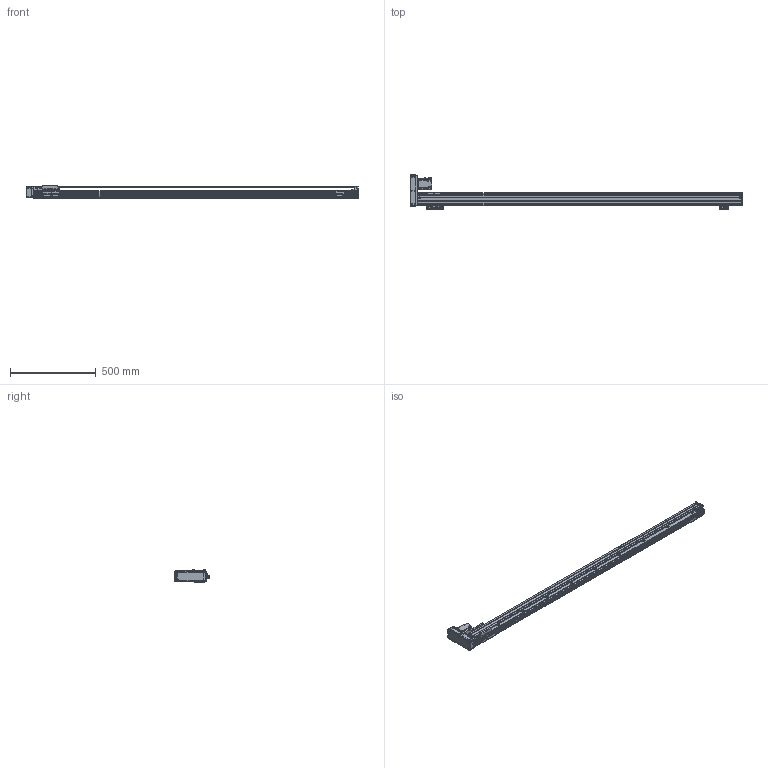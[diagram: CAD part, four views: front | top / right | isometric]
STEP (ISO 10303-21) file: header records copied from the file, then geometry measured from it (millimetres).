
FILE_DESCRIPTION(/* description */ (''),/* implementation_level */ '2;1');
FILE_NAME(/* name */ '\\192.168.0.160\disk1\HAN SHIN Master\B-설계부문\C-표준\B-2024년\BC02-표준도면\+로봇 개선표준도면\홈페이지 표준 도면\홈페이지 최종 작업 폴더\3D\HR\HR75\HR75병렬\좌병렬\HR75-L20-N1B-1700-R10.stp',/* time_stamp */ '2025-01-18T15:43:08+09:00',/* author */ ('user'),/* organization */ (''),/* preprocessor_version */ 'ST-DEVELOPER v18.1',/* originating_system */ 'Autodesk Inventor 2022',/* authorisation */ '');
FILE_SCHEMA (('CONFIG_CONTROL_DESIGN'));
Products named in the file (23): HG75-L20-N1B-0500-R10 - 간소화; BASE; HR75 FRONT BLOCK; HR75 REAR COVER-TENTION; HR75 TENSION REAR BLOCK; HG3UPCOV001; H 15F_BLOCK; HR65,75 SENSOR DOG; HG90STOPPER - 20L; HG90STOPPER - 27L; MOTOR PLATE-200W(MITSUBISHI); HC75-LR-MOTOR PLATE(200W)-사출; 화살표; HR75-LR-BELT COVER(200W); HR75-BELT COVER-COVER2; HR75-BELT COVER-COVER; hg-kr23_; HR65-BELT COVER-COVER3; M-5HL-4; HR75 W TABLE; LMKE1520 NUT; SENSOR BRK(EE-SX674A); EE_SX674A
Assembly tree (28 placements, depth 2):
  HG75-L20-N1B-0500-R10 - 간소화
    BASE
    HR75 FRONT BLOCK
    HR75 REAR COVER-TENTION
    SENSOR BRK(EE-SX674A)  x3
    EE_SX674A  x3
    HR75 TENSION REAR BLOCK
    HG3UPCOV001
    H 15F_BLOCK
    HR65,75 SENSOR DOG
    HG90STOPPER - 20L
    HG90STOPPER - 27L
    MOTOR PLATE-200W(MITSUBISHI)
    HC75-LR-MOTOR PLATE(200W)-사출
    화살표  x2
    HR75-LR-BELT COVER(200W)
    HR75-BELT COVER-COVER2
    HR75-BELT COVER-COVER
    HR65-BELT COVER-COVER3  x2
    hg-kr23_
    M-5HL-4
    HR75 W TABLE
    LMKE1520 NUT
Bounding box: 1939 x 199 x 73 mm (x, y, z)
Volume: 2684765.6 mm3; surface area: 1256812.6 mm2
Topology: 28 solids, 28 shells, 2948 faces, 8105 edges, 5357 vertices
Faces by surface type: plane 2189, cylinder 644, cone 107, sphere 8
Full cylindrical faces by diameter (mm): 1.8 x1, 2 x4, 2.013 x2, 2.459 x16, 2.5 x2, 3 x8, 3.242 x46, 3.4 x20, 3.5 x6, 4.134 x54, 4.5 x22, 4.917 x5, 5 x31, 5.5 x38, 5.6 x8, 5.8 x4, 5.9 x8, 6 x4, 6.5 x1, 7 x1, 8 x1, 9.5 x34, 14 x1, 15 x3, 17 x1, 20 x1, 25 x2, 28 x1, 32 x2, 33.7 x1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
Entity records: 89115 total; most frequent: CARTESIAN_POINT 16066, ORIENTED_EDGE 15094, DIRECTION 14386, EDGE_CURVE 7547, LINE 6192, VECTOR 6192, VERTEX_POINT 5025, AXIS2_PLACEMENT_3D 4097
